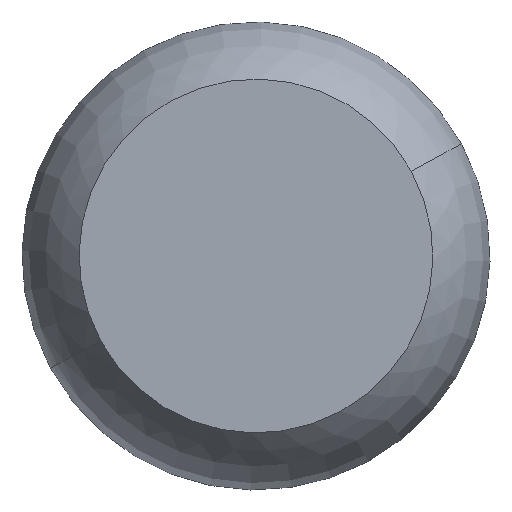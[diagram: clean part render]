
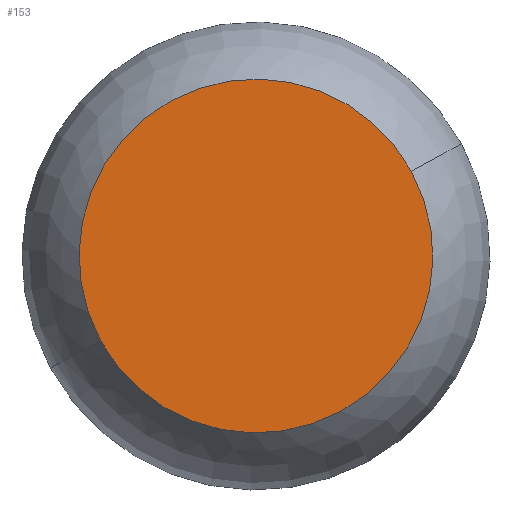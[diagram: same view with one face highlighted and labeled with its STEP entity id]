
A CAD part, front view. The second image highlights one B-rep face of the part: STEP entity #153.
In plain terms, the highlighted planar face has unit normal (0, -1, 0).
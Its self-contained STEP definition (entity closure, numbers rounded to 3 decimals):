
#66=CARTESIAN_POINT('Axis2P3D Location',(0.,0.,0.)) ;
#70=CARTESIAN_POINT('Vertex',(86.881,0.,47.463)) ;
#72=CARTESIAN_POINT('Vertex',(-86.881,0.,-47.463)) ;
#127=CARTESIAN_POINT('Axis2P3D Location',(0.,0.,0.)) ;
#144=CARTESIAN_POINT('Axis2P3D Location',(0.,0.,0.)) ;
#67=DIRECTION('Axis2P3D Direction',(0.,-1.,0.)) ;
#128=DIRECTION('Axis2P3D Direction',(0.,-1.,0.)) ;
#145=DIRECTION('Axis2P3D Direction',(0.,-1.,0.)) ;
#146=DIRECTION('Axis2P3D XDirection',(1.,0.,0.)) ;
#68=AXIS2_PLACEMENT_3D('Circle Axis2P3D',#66,#67,$) ;
#129=AXIS2_PLACEMENT_3D('Circle Axis2P3D',#127,#128,$) ;
#147=AXIS2_PLACEMENT_3D('Plane Axis2P3D',#144,#145,#146) ;
#150=ORIENTED_EDGE('',*,*,#74,.T.) ;
#151=ORIENTED_EDGE('',*,*,#131,.T.) ;
#153=ADVANCED_FACE('PartBody',(#152),#148,.T.) ;
#69=CIRCLE('generated circle',#68,99.) ;
#130=CIRCLE('generated circle',#129,99.) ;
#74=EDGE_CURVE('',#71,#73,#69,.T.) ;
#131=EDGE_CURVE('',#73,#71,#130,.T.) ;
#149=EDGE_LOOP('',(#150,#151)) ;
#152=FACE_OUTER_BOUND('',#149,.T.) ;
#148=PLANE('',#147) ;
#71=VERTEX_POINT('',#70) ;
#73=VERTEX_POINT('',#72) ;
